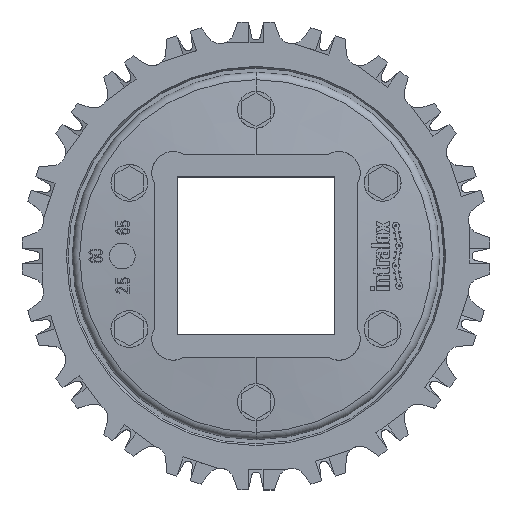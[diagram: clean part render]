
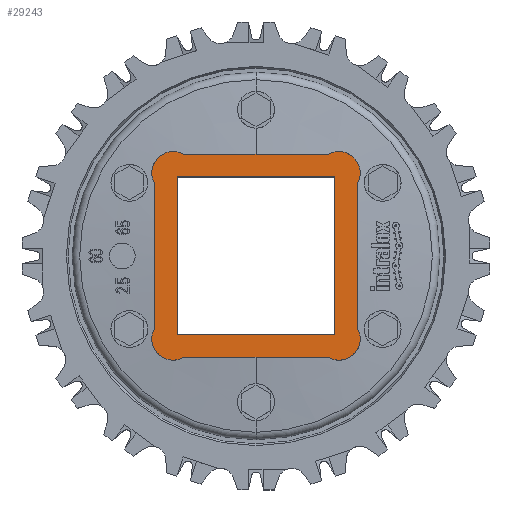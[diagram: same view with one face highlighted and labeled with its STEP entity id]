
A CAD part, top view. The second image highlights one B-rep face of the part: STEP entity #29243.
In plain terms, the highlighted planar face has unit normal (0, 0, 1) as drawn and (0, 1, 0) by its records, which use the part's own axes.
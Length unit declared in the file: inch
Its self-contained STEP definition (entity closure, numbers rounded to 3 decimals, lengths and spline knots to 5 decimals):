
#18575=DIRECTION('',(0.,0.,1.));
#18576=VECTOR('',#18575,2.16129);
#18577=CARTESIAN_POINT('',(-1.5175,0.67,-1.08065));
#18578=LINE('',#18577,#18576);
#18579=CARTESIAN_POINT('',(-1.24,0.67,-1.24));
#18580=DIRECTION('',(0.,1.,0.));
#18581=DIRECTION('',(0.498,0.,-0.867));
#18582=AXIS2_PLACEMENT_3D('',#18579,#18580,#18581);
#18584=DIRECTION('',(-1.,0.,0.));
#18585=VECTOR('',#18584,2.16129);
#18586=CARTESIAN_POINT('',(1.08065,0.67,-1.5175));
#18587=LINE('',#18586,#18585);
#18588=CARTESIAN_POINT('',(1.24,0.67,-1.24));
#18589=DIRECTION('',(0.,1.,0.));
#18590=DIRECTION('',(0.867,0.,0.498));
#18591=AXIS2_PLACEMENT_3D('',#18588,#18589,#18590);
#18593=DIRECTION('',(0.,0.,-1.));
#18594=VECTOR('',#18593,2.16129);
#18595=CARTESIAN_POINT('',(1.5175,0.67,1.08065));
#18596=LINE('',#18595,#18594);
#18597=CARTESIAN_POINT('',(1.24,0.67,1.24));
#18598=DIRECTION('',(0.,1.,0.));
#18599=DIRECTION('',(-0.498,0.,0.867));
#18600=AXIS2_PLACEMENT_3D('',#18597,#18598,#18599);
#18602=DIRECTION('',(1.,0.,0.));
#18603=VECTOR('',#18602,2.16129);
#18604=CARTESIAN_POINT('',(-1.08065,0.67,1.5175));
#18605=LINE('',#18604,#18603);
#18606=CARTESIAN_POINT('',(-1.24,0.67,1.24));
#18607=DIRECTION('',(0.,1.,0.));
#18608=DIRECTION('',(-0.867,0.,-0.498));
#18609=AXIS2_PLACEMENT_3D('',#18606,#18607,#18608);
#18611=DIRECTION('',(-1.,0.,0.));
#18612=VECTOR('',#18611,2.362);
#18613=CARTESIAN_POINT('',(1.181,0.67,-1.181));
#18614=LINE('',#18613,#18612);
#18615=DIRECTION('',(0.,0.,1.));
#18616=VECTOR('',#18615,2.362);
#18617=CARTESIAN_POINT('',(-1.181,0.67,-1.181));
#18618=LINE('',#18617,#18616);
#18619=DIRECTION('',(1.,0.,0.));
#18620=VECTOR('',#18619,2.362);
#18621=CARTESIAN_POINT('',(-1.181,0.67,1.181));
#18622=LINE('',#18621,#18620);
#18623=DIRECTION('',(0.,0.,-1.));
#18624=VECTOR('',#18623,2.362);
#18625=CARTESIAN_POINT('',(1.181,0.67,1.181));
#18626=LINE('',#18625,#18624);
#20345=CARTESIAN_POINT('',(-1.5175,0.67,-1.08065));
#20346=CARTESIAN_POINT('',(-1.5175,0.67,1.08065));
#20347=VERTEX_POINT('',#20345);
#20348=VERTEX_POINT('',#20346);
#20349=CARTESIAN_POINT('',(-1.08065,0.67,1.5175));
#20350=VERTEX_POINT('',#20349);
#20351=CARTESIAN_POINT('',(1.08065,0.67,1.5175));
#20352=VERTEX_POINT('',#20351);
#20353=CARTESIAN_POINT('',(1.5175,0.67,1.08065));
#20354=VERTEX_POINT('',#20353);
#20355=CARTESIAN_POINT('',(1.5175,0.67,-1.08065));
#20356=VERTEX_POINT('',#20355);
#20357=CARTESIAN_POINT('',(1.08065,0.67,-1.5175));
#20358=VERTEX_POINT('',#20357);
#20359=CARTESIAN_POINT('',(-1.08065,0.67,-1.5175));
#20360=VERTEX_POINT('',#20359);
#21435=CARTESIAN_POINT('',(1.181,0.67,-1.181));
#21436=CARTESIAN_POINT('',(-1.181,0.67,-1.181));
#21437=VERTEX_POINT('',#21435);
#21438=VERTEX_POINT('',#21436);
#21439=CARTESIAN_POINT('',(-1.181,0.67,1.181));
#21440=VERTEX_POINT('',#21439);
#21441=CARTESIAN_POINT('',(1.181,0.67,1.181));
#21442=VERTEX_POINT('',#21441);
#29218=CARTESIAN_POINT('',(0.,0.67,0.));
#29219=DIRECTION('',(0.,1.,0.));
#29220=DIRECTION('',(-1.,0.,0.));
#29221=AXIS2_PLACEMENT_3D('',#29218,#29219,#29220);
#29222=PLANE('',#29221);
#29223=ORIENTED_EDGE('',*,*,#29112,.F.);
#29224=ORIENTED_EDGE('',*,*,#29128,.F.);
#29225=ORIENTED_EDGE('',*,*,#29142,.F.);
#29226=ORIENTED_EDGE('',*,*,#29156,.F.);
#29227=ORIENTED_EDGE('',*,*,#29171,.F.);
#29228=ORIENTED_EDGE('',*,*,#29185,.F.);
#29229=ORIENTED_EDGE('',*,*,#29199,.F.);
#29230=ORIENTED_EDGE('',*,*,#29212,.F.);
#29231=EDGE_LOOP('',(#29223,#29224,#29225,#29226,#29227,#29228,#29229,#29230));
#29232=FACE_OUTER_BOUND('',#29231,.F.);
#29234=ORIENTED_EDGE('',*,*,#29233,.T.);
#29236=ORIENTED_EDGE('',*,*,#29235,.T.);
#29238=ORIENTED_EDGE('',*,*,#29237,.T.);
#29240=ORIENTED_EDGE('',*,*,#29239,.T.);
#29241=EDGE_LOOP('',(#29234,#29236,#29238,#29240));
#29242=FACE_BOUND('',#29241,.F.);
#29243=ADVANCED_FACE('',(#29232,#29242),#29222,.T.);
#18583=CIRCLE('',#18582,0.32);
#18592=CIRCLE('',#18591,0.32);
#18601=CIRCLE('',#18600,0.32);
#18610=CIRCLE('',#18609,0.32);
#29112=EDGE_CURVE('',#20347,#20348,#18578,.T.);
#29128=EDGE_CURVE('',#20360,#20347,#18583,.T.);
#29142=EDGE_CURVE('',#20358,#20360,#18587,.T.);
#29156=EDGE_CURVE('',#20356,#20358,#18592,.T.);
#29171=EDGE_CURVE('',#20354,#20356,#18596,.T.);
#29185=EDGE_CURVE('',#20352,#20354,#18601,.T.);
#29199=EDGE_CURVE('',#20350,#20352,#18605,.T.);
#29212=EDGE_CURVE('',#20348,#20350,#18610,.T.);
#29233=EDGE_CURVE('',#21437,#21438,#18614,.T.);
#29235=EDGE_CURVE('',#21438,#21440,#18618,.T.);
#29237=EDGE_CURVE('',#21440,#21442,#18622,.T.);
#29239=EDGE_CURVE('',#21442,#21437,#18626,.T.);
